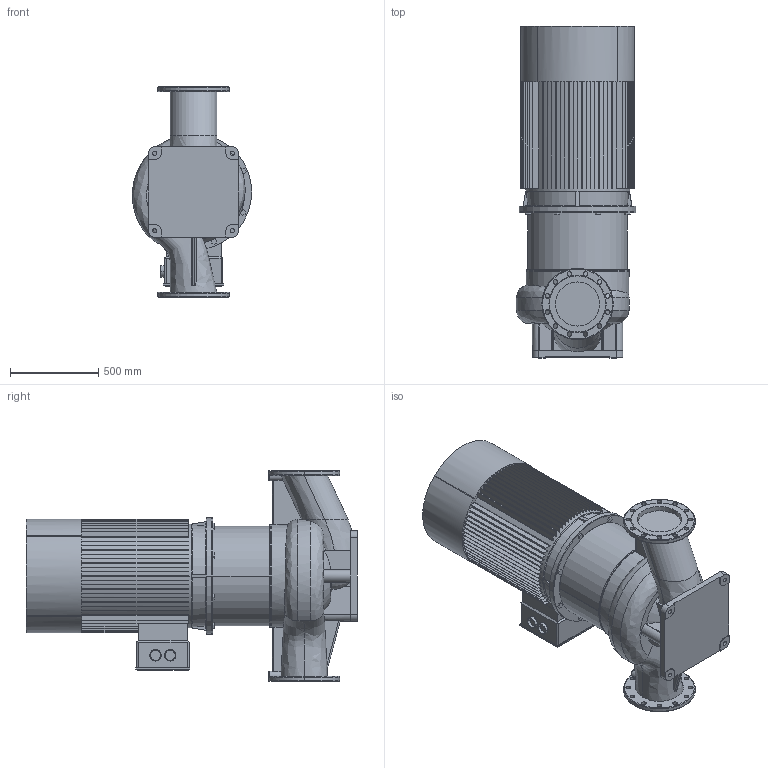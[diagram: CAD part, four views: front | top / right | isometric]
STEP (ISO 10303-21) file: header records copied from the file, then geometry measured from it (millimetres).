
FILE_DESCRIPTION (( 'STEP AP203' ), '1' );
FILE_NAME ('TD250-40_4.STEP', '2022-05-02T18:09:27', ( '' ), ( '' ), 'SwSTEP 2.0', 'SolidWorks 2019', '' );
FILE_SCHEMA (( 'CONFIG_CONTROL_DESIGN' ));
Length unit declared in the file: millimetre
Products named in the file (4): Fon_250_TD250-40_4; ED_B5_YE2-315S-4 (110); TD250-40_4; Pr_ch 250_TD250-40_4
Assembly tree (3 placements, depth 2):
  TD250-40_4
    Pr_ch 250_TD250-40_4
    Fon_250_TD250-40_4
    ED_B5_YE2-315S-4 (110)
Bounding box: 677.52 x 1883 x 1200 mm (x, y, z)
Volume: 484188876.6 mm3; surface area: 9821158.9 mm2
Topology: 13 solids, 13 shells, 827 faces, 2261 edges, 1498 vertices
Faces by surface type: plane 568, cylinder 187, torus 33, bspline 22, cone 17
Entity records: 35583 total; most frequent: CARTESIAN_POINT 13735, ORIENTED_EDGE 4522, DIRECTION 4448, EDGE_CURVE 2261, AXIS2_PLACEMENT_3D 1528, VERTEX_POINT 1498, LINE 1392, VECTOR 1392
